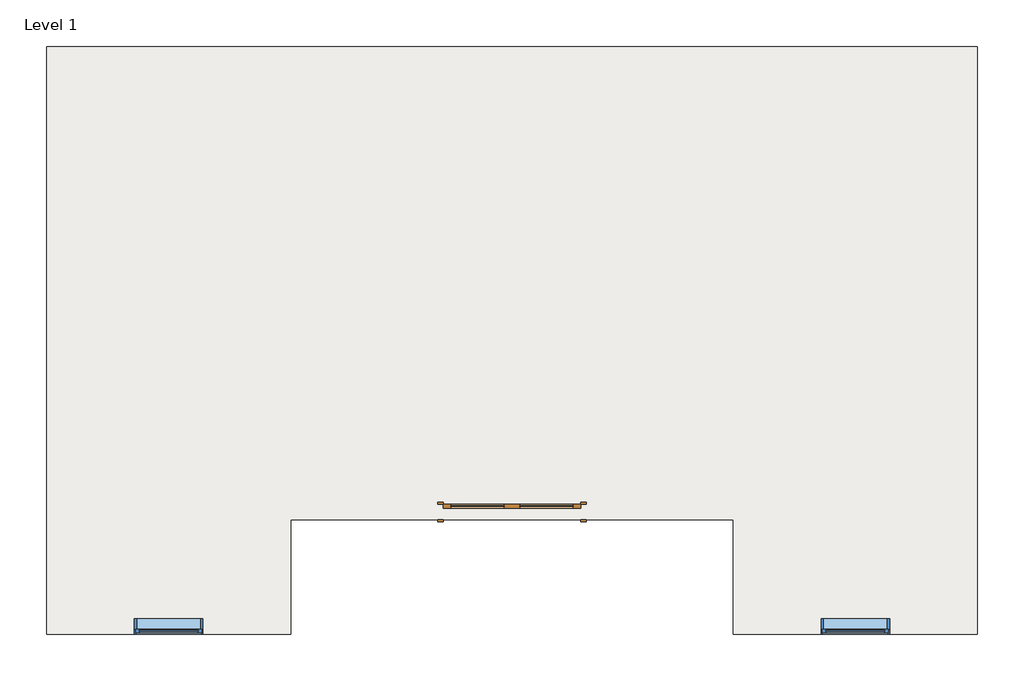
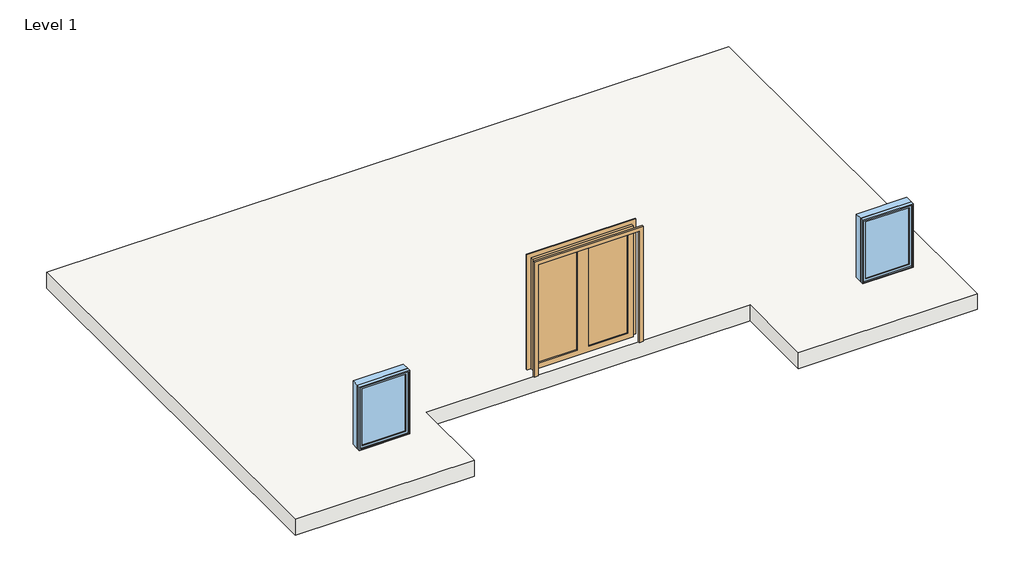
# One storey: 2 windows, 1 door, 1 slab.
"""IFC4 building model written with IfcOpenShell, lengths in millimetres."""

import ifcopenshell
import ifcopenshell.guid

model = None  # the IFC model being written
_history = None  # IfcOwnerHistory: only IFC2X3 demands one
_inside = {}  # id of a spatial element -> (the spatial element, [elements in it])
_under = {}  # id of a project, library or spatial element -> (it, [spatial elements below it])
_declared = {}  # id of a project -> (the project, [libraries it declares])
_typed = {}  # id of a type object -> (the type object, [elements of that type])
_made_of = {}  # id of a material, layer set ... -> (it, [elements and type objects made of it])


def new_model(schema):
    """Start an empty IFC model of exactly this schema.

    Asked for "IFC4X3", IfcOpenShell would pick the latest addendum, in which some entities
    have other attributes; the version numbers below select the first issue.
    IFC2X3 requires an IfcOwnerHistory on every rooted entity: one is made here for all.
    """
    global model, _history
    if schema == "IFC4X3":
        model = ifcopenshell.file(schema_version=(4, 3, 0, 0))
    else:
        model = ifcopenshell.file(schema=schema)
    _inside.clear()
    _under.clear()
    _declared.clear()
    _typed.clear()
    _made_of.clear()
    _history = None
    if model.schema == "IFC2X3":
        org = make("IfcOrganization", Name="unknown")
        user = make(
            "IfcPersonAndOrganization",
            ThePerson=make("IfcPerson", FamilyName="unknown"),
            TheOrganization=org,
        )
        app = make(
            "IfcApplication",
            ApplicationDeveloper=org,
            Version="unknown",
            ApplicationFullName="unknown",
            ApplicationIdentifier="unknown",
        )
        _history = make(
            "IfcOwnerHistory",
            OwningUser=user,
            OwningApplication=app,
            ChangeAction="ADDED",
            CreationDate=0,
        )
    return model


def make(cls, **values):
    """One entity of the class cls with the attributes given. An attribute that is None is left unset."""
    return model.create_entity(
        cls, **{name: value for name, value in values.items() if value is not None}
    )


def rooted(cls, **values):
    """An entity with a GlobalId (a new one), such as an element, a storey or a relation."""
    return make(cls, GlobalId=ifcopenshell.guid.new(), OwnerHistory=_history, **values)


def si_unit(unit_type, name, prefix=None):
    """IfcSIUnit, for example si_unit("LENGTHUNIT", "METRE", prefix="MILLI")."""
    return make("IfcSIUnit", UnitType=unit_type, Prefix=prefix, Name=name)


def assignment(units):
    """IfcUnitAssignment: the units of a project."""
    return None if units is None else make("IfcUnitAssignment", Units=units)


def point(xyz):
    """IfcCartesianPoint."""
    return None if xyz is None else make("IfcCartesianPoint", Coordinates=xyz)


def direction(xyz):
    """IfcDirection."""
    return None if xyz is None else make("IfcDirection", DirectionRatios=xyz)


def frame(location, z_axis=None, x_axis=None):
    """IfcAxis2Placement3D, a coordinate frame: its origin and axes. An axis left out is left unset."""
    return make(
        "IfcAxis2Placement3D",
        Location=point(location),
        Axis=direction(z_axis),
        RefDirection=direction(x_axis),
    )


def origin():
    """The frame at (0, 0, 0) with its axes left unset."""
    return frame((0.0, 0.0, 0.0))


def place(relative_to, where):
    """IfcLocalPlacement: puts the frame where relative to a parent placement (None: the world)."""
    return make(
        "IfcLocalPlacement", PlacementRelTo=relative_to, RelativePlacement=where
    )


def context(
    kind, dimensions, precision=None, world=None, true_north=None, identifier=None
):
    """IfcGeometricRepresentationContext, for example the 3D "Model" context."""
    return make(
        "IfcGeometricRepresentationContext",
        ContextIdentifier=identifier,
        ContextType=kind,
        CoordinateSpaceDimension=dimensions,
        Precision=precision,
        WorldCoordinateSystem=world,
        TrueNorth=true_north,
    )


def project(units=None, contexts=None):
    """IfcProject with its units and contexts."""
    return rooted(
        "IfcProject",
        Name="project",
        RepresentationContexts=contexts,
        UnitsInContext=assignment(units),
    )


def spatial(cls, under=None, at=None, **own):
    """A site, building, storey or space (cls), placed at a placement, below another one or the project."""
    s = rooted(cls, ObjectPlacement=at, **own)
    if under is not None:
        _under.setdefault(under.id(), (under, []))[1].append(s)
    return s


def polyline(points):
    """IfcPolyline through the points."""
    return make("IfcPolyline", Points=[point(p) for p in points])


def outline(outer, holes=None, kind="AREA"):
    """IfcArbitraryClosedProfileDef: a profile drawn as a closed curve; with holes, ...WithVoids."""
    if holes is None:
        return make("IfcArbitraryClosedProfileDef", ProfileType=kind, OuterCurve=outer)
    return make(
        "IfcArbitraryProfileDefWithVoids",
        ProfileType=kind,
        OuterCurve=outer,
        InnerCurves=holes,
    )


def extrude(swept, where, along, depth):
    """IfcExtrudedAreaSolid: the profile swept, set in the frame where, extruded along a direction by depth."""
    return make(
        "IfcExtrudedAreaSolid",
        SweptArea=swept,
        Position=where,
        ExtrudedDirection=direction(along),
        Depth=depth,
    )


def shape(context_of_items, identifier, shape_type, items):
    """IfcShapeRepresentation: the items that make up one representation, for example the "Body"."""
    return make(
        "IfcShapeRepresentation",
        ContextOfItems=context_of_items,
        RepresentationIdentifier=identifier,
        RepresentationType=shape_type,
        Items=items,
    )


def source(mapping_origin, context_of_items, identifier, shape_type, items):
    """IfcRepresentationMap: a shape defined once, which mapped items show again and again."""
    return make(
        "IfcRepresentationMap",
        MappingOrigin=mapping_origin,
        MappedRepresentation=shape(context_of_items, identifier, shape_type, items),
    )


def transform(
    local_origin,
    x_axis=None,
    y_axis=None,
    z_axis=None,
    scale=None,
    scale2=None,
    scale3=None,
    uniform=True,
):
    """IfcCartesianTransformationOperator3D, or its non-uniform kind. x_axis, y_axis, z_axis: its Axis1, 2, 3."""
    if uniform:
        return make(
            "IfcCartesianTransformationOperator3D",
            Axis1=direction(x_axis),
            Axis2=direction(y_axis),
            LocalOrigin=point(local_origin),
            Scale=scale,
            Axis3=direction(z_axis),
        )
    return make(
        "IfcCartesianTransformationOperator3DnonUniform",
        Axis1=direction(x_axis),
        Axis2=direction(y_axis),
        LocalOrigin=point(local_origin),
        Scale=scale,
        Axis3=direction(z_axis),
        Scale2=scale2,
        Scale3=scale3,
    )


def mapped(mapping_source, mapping_target):
    """IfcMappedItem: shows the shape of a source again, moved by a transform."""
    return make(
        "IfcMappedItem", MappingSource=mapping_source, MappingTarget=mapping_target
    )


def made_of(thing, what):
    """Note that an element or type object is made of a material, layer set ...; save() writes the relation."""
    if what is not None:
        _made_of.setdefault(what.id(), (what, []))[1].append(thing)
    return thing


def element(
    cls,
    number,
    at=None,
    inside=None,
    cuts=None,
    type_object=None,
    material=None,
    context=None,
    identifier="Body",
    shape_type=None,
    held_by="IfcProductDefinitionShape",
    body=None,
    shapes=None,
    **own,
):
    """One element of the class cls, such as IfcWall. Its Tag is "e" and its number.

    at: its placement. inside: the storey or other place that contains it. cuts: it is an
    opening in that element (IfcRelVoidsElement). A single representation is given by context,
    identifier, shape_type and body (its items); several are given by shapes. held_by: the class
    of the entity that holds the representations. save() writes the other relations.
    """
    e = rooted(cls, Tag="e%d" % number, ObjectPlacement=at, **own)
    if body is not None:
        shapes = [shape(context, identifier, shape_type, body)]
    if shapes is not None:
        e.Representation = make(held_by, Representations=shapes)
    if inside is not None:
        _inside.setdefault(inside.id(), (inside, []))[1].append(e)
    if cuts is not None:
        rooted(
            "IfcRelVoidsElement", RelatingBuildingElement=cuts, RelatedOpeningElement=e
        )
    if type_object is not None:
        _typed.setdefault(type_object.id(), (type_object, []))[1].append(e)
    return made_of(e, material)


def aggregate(whole, parts):
    """IfcRelAggregates: a whole, such as a stair, and the parts it consists of."""
    return rooted("IfcRelAggregates", RelatingObject=whole, RelatedObjects=parts)


def save(model, path):
    """Write the relations noted so far, then the file.

    IfcRelAggregates (storeys below a building ...), IfcRelContainedInSpatialStructure (elements
    in a storey), IfcRelDefinesByType, IfcRelAssociatesMaterial and IfcRelDeclares: one each for
    every whole, place, type object, material and project.
    """
    for whole, parts in _under.values():
        aggregate(whole, parts)
    for where, things in _inside.values():
        rooted(
            "IfcRelContainedInSpatialStructure",
            RelatedElements=things,
            RelatingStructure=where,
        )
    for kind, things in _typed.values():
        rooted("IfcRelDefinesByType", RelatedObjects=things, RelatingType=kind)
    for what, things in _made_of.values():
        rooted("IfcRelAssociatesMaterial", RelatedObjects=things, RelatingMaterial=what)
    for by, libraries in _declared.values():
        rooted("IfcRelDeclares", RelatingContext=by, RelatedDefinitions=libraries)
    model.write(path)


def door_a5cba548(model_context):
    return source(origin(), model_context, "Body", "SweptSolid", [
        extrude(outline(polyline([(0.0, 990.6), (2209.8, 990.6), (2209.8, -990.6), (0.0, -990.6), (0.0, -914.4), (2133.6, -914.4), (2133.6, 914.4), (0.0, 914.4), (0.0, 990.6)])), frame((0.0, -124.61875, 0.0), z_axis=(0.0, 1.0, 0.0), x_axis=(0.0, 0.0, 1.0)), (0.0, 0.0, 1.0), 25.4),
        extrude(outline(polyline([(2133.6, 914.4), (0.0, 914.4), (0.0, 990.6), (2209.8, 990.6), (2209.8, -990.6), (0.0, -990.6), (0.0, -914.4), (2133.6, -914.4), (2133.6, 914.4)])), frame((0.0, 103.98125, 0.0), z_axis=(0.0, 1.0, 0.0), x_axis=(0.0, 0.0, 1.0)), (0.0, 0.0, 1.0), 25.4),
        extrude(outline(polyline([(812.8, 78.58125), (101.6, 78.58125), (101.6, 85.725), (812.8, 85.725), (812.8, 78.58125)])), frame((0.0, 0.0, 101.6), z_axis=(0.0, 0.0, 1.0), x_axis=(1.0, 0.0, 0.0)), (0.0, 0.0, 1.0), 1930.4),
        extrude(outline(polyline([(-101.6, 78.58125), (-812.8, 78.58125), (-812.8, 85.725), (-101.6, 85.725), (-101.6, 78.58125)])), frame((0.0, 0.0, 101.6), z_axis=(0.0, 0.0, 1.0), x_axis=(1.0, 0.0, 0.0)), (0.0, 0.0, 1.0), 1930.4),
        extrude(outline(polyline([(2133.6, 914.4), (2133.6, -914.4), (0.0, -914.4), (0.0, 914.4), (2133.6, 914.4)]), holes=[polyline([(2032.0, -101.6), (101.6, -101.6), (101.6, -812.8), (2032.0, -812.8), (2032.0, -101.6)]), polyline([(2032.0, 812.8), (101.6, 812.8), (101.6, 101.6), (2032.0, 101.6), (2032.0, 812.8)])]), frame((0.0, 53.18125, 0.0), z_axis=(0.0, 1.0, 0.0), x_axis=(0.0, 0.0, 1.0)), (0.0, 0.0, 1.0), 50.8),
    ])


def window_e2841890(model_context):
    return source(origin(), model_context, "Body", "SweptSolid", [
        extrude(outline(polyline([(355.6, 53.975), (-431.8, 53.975), (-431.8, 66.675), (355.6, 66.675), (355.6, 53.975)])), frame((0.0, 0.0, 977.9), z_axis=(0.0, 0.0, 1.0), x_axis=(1.0, 0.0, 0.0)), (0.0, 0.0, 1.0), 1092.2),
        extrude(outline(polyline([(2114.55, -476.25), (933.45, -476.25), (933.45, 400.05), (2114.55, 400.05), (2114.55, -476.25)]), holes=[polyline([(2070.1, -431.8), (2070.1, 355.6), (977.9, 355.6), (977.9, -431.8), (2070.1, -431.8)])]), frame((0.0, 38.1, 0.0), z_axis=(0.0, 1.0, 0.0), x_axis=(0.0, 0.0, 1.0)), (0.0, 0.0, 1.0), 44.45),
        extrude(outline(polyline([(2133.6, -495.3), (914.4, -495.3), (914.4, 419.1), (2133.6, 419.1), (2133.6, -495.3)]), holes=[polyline([(2101.85, -463.55), (2101.85, 387.35), (946.15, 387.35), (946.15, -463.55), (2101.85, -463.55)])]), frame((0.0, -101.6, 0.0), z_axis=(0.0, 1.0, 0.0), x_axis=(0.0, 0.0, 1.0)), (0.0, 0.0, 1.0), 139.7),
        extrude(outline(polyline([(2133.6, 419.1), (2133.6, -495.3), (914.4, -495.3), (914.4, 419.1), (2133.6, 419.1)]), holes=[polyline([(2114.55, 400.05), (933.45, 400.05), (933.45, -476.25), (2114.55, -476.25), (2114.55, 400.05)])]), frame((0.0, 38.1, 0.0), z_axis=(0.0, 1.0, 0.0), x_axis=(0.0, 0.0, 1.0)), (0.0, 0.0, 1.0), 63.5),
    ])


model = new_model("IFC4")

# Units and contexts
model_context = context("Model", 3, world=origin())
ifc_project = project(units=[si_unit("LENGTHUNIT", "METRE", prefix="MILLI")], contexts=[model_context])

# Site, building, storey
site = spatial("IfcSite", under=ifc_project)
building = spatial("IfcBuilding", under=site)
storey = spatial("IfcBuildingStorey", under=building, Name="Level 1", Elevation=0.0)

# Door
placement = place(None, origin())
door_shape = door_a5cba548(model_context)
element("IfcDoor", 1, ObjectType="Double-Glass 1 : 72\" x 84\"", at=placement, inside=storey, context=model_context, shape_type="MappedRepresentation", body=[
    mapped(door_shape, transform((-1873.6845581, -1159.4671739, 0.0), x_axis=(1.0, 0.0, 0.0), y_axis=(0.0, 1.0, 0.0), z_axis=(0.0, 0.0, 1.0))),
])

# Slab
element("IfcSlab", 2, ObjectType="Generic - 12\"", at=placement, inside=storey, context=model_context, shape_type="SweptSolid", body=[
    extrude(outline(polyline([(4323.9154419, 5040.5140761), (4323.9154419, -2782.6859239), (1072.7154419, -2782.6859239), (1072.7154419, -1258.6859239), (-4820.0845581, -1258.6859239), (-4820.0845581, -2782.6859239), (-8071.2845581, -2782.6859239), (-8071.2845581, 5040.5140761), (4323.9154419, 5040.5140761)])), frame((0.0, 0.0, -304.8), z_axis=(0.0, 0.0, 1.0), x_axis=(1.0, 0.0, 0.0)), (0.0, 0.0, 1.0), 304.8),
])

# Windows
window_shape = window_e2841890(model_context)
element("IfcWindow", 3, ObjectType="Fixed : 36\" x 48\"", at=placement, inside=storey, context=model_context, shape_type="MappedRepresentation", body=[
    mapped(window_shape, transform((-6483.7845581, -2681.0859239, 0.0), x_axis=(-1.0, 0.0, 0.0), y_axis=(0.0, -1.0, 0.0), z_axis=(0.0, 0.0, 1.0))),
])
element("IfcWindow", 4, ObjectType="Fixed : 36\" x 48\"", at=placement, inside=storey, context=model_context, shape_type="MappedRepresentation", body=[
    mapped(window_shape, transform((2660.2154419, -2681.0859239, 0.0), x_axis=(-1.0, 0.0, 0.0), y_axis=(0.0, -1.0, 0.0), z_axis=(0.0, 0.0, 1.0))),
])

save(model, "model.ifc")
